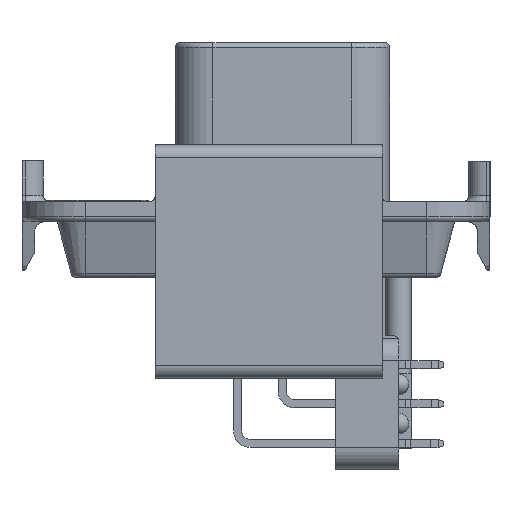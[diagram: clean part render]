
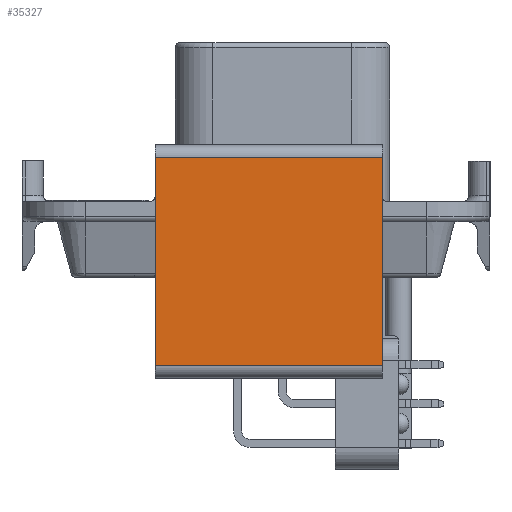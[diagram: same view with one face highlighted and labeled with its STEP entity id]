
A CAD part, left-side view. The second image highlights one B-rep face of the part: STEP entity #35327.
In plain terms, the highlighted planar face has unit normal (-1, 0, 0).
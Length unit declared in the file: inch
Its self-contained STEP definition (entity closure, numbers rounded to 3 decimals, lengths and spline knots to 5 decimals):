
#9552=DIRECTION('',(0.,0.,1.));
#9553=VECTOR('',#9552,0.825);
#9554=CARTESIAN_POINT('',(-3.7,0.5045,-0.65));
#9555=LINE('',#9554,#9553);
#10522=DIRECTION('',(0.,0.,1.));
#10523=VECTOR('',#10522,0.825);
#10524=CARTESIAN_POINT('',(-3.7,-0.3955,-0.65));
#10525=LINE('',#10524,#10523);
#10561=DIRECTION('',(0.,-1.,0.));
#10562=VECTOR('',#10561,0.9);
#10563=CARTESIAN_POINT('',(-3.7,0.5045,-0.65));
#10564=LINE('',#10563,#10562);
#10565=DIRECTION('',(0.,-1.,0.));
#10566=VECTOR('',#10565,0.9);
#10567=CARTESIAN_POINT('',(-3.7,0.5045,0.175));
#10568=LINE('',#10567,#10566);
#17363=CARTESIAN_POINT('',(-3.7,0.5045,-0.65));
#17365=VERTEX_POINT('',#17363);
#17366=CARTESIAN_POINT('',(-3.7,0.5045,0.175));
#17367=VERTEX_POINT('',#17366);
#17379=CARTESIAN_POINT('',(-3.7,-0.3955,-0.65));
#17381=VERTEX_POINT('',#17379);
#17382=CARTESIAN_POINT('',(-3.7,-0.3955,0.175));
#17383=VERTEX_POINT('',#17382);
#35315=CARTESIAN_POINT('',(-3.7,0.5045,-0.65));
#35316=DIRECTION('',(1.,0.,0.));
#35317=DIRECTION('',(0.,0.,1.));
#35318=AXIS2_PLACEMENT_3D('',#35315,#35316,#35317);
#35319=PLANE('',#35318);
#35320=ORIENTED_EDGE('',*,*,#34082,.T.);
#35322=ORIENTED_EDGE('',*,*,#35321,.T.);
#35323=ORIENTED_EDGE('',*,*,#35283,.F.);
#35324=ORIENTED_EDGE('',*,*,#35308,.F.);
#35325=EDGE_LOOP('',(#35320,#35322,#35323,#35324));
#35326=FACE_OUTER_BOUND('',#35325,.F.);
#35327=ADVANCED_FACE('',(#35326),#35319,.F.);
#34082=EDGE_CURVE('',#17365,#17367,#9555,.T.);
#35283=EDGE_CURVE('',#17381,#17383,#10525,.T.);
#35308=EDGE_CURVE('',#17365,#17381,#10564,.T.);
#35321=EDGE_CURVE('',#17367,#17383,#10568,.T.);
